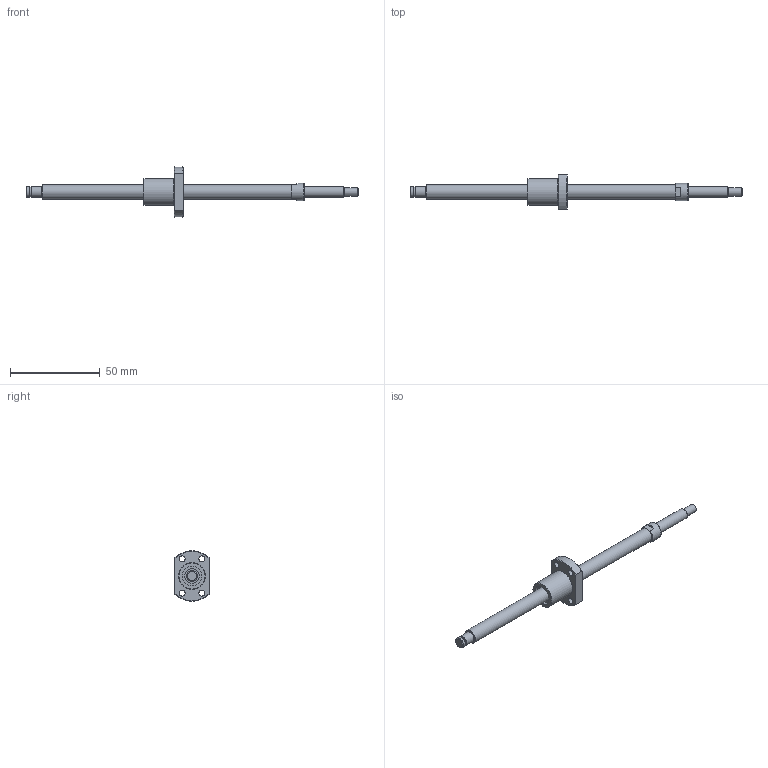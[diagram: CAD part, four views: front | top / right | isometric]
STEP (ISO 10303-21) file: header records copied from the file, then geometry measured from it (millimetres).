
FILE_DESCRIPTION(/* description */ ('STEP AP203'),/* implementation_level */ '2;1');
FILE_NAME(/* name */ 'BNK0802-3RRG0+185LC5Y(78.5)',/* time_stamp */ '2024-07-09T08:47:21+02:00',/* author */ ('License CC BY-ND 4.0'),/* organization */ ('CADENAS'),/* preprocessor_version */ 'ST-DEVELOPER v19.3',/* originating_system */ 'PARTsolutions',/* authorisation */ ' ');
FILE_SCHEMA (('CONFIG_CONTROL_DESIGN'));
Length unit declared in the file: millimetre
Products named in the file (3): BNK0802-3RRG0+185LC5Y(78.5); BNK 0802-3RRG0+185LC5Y Shaft; BNK 0802-3RRG0+185LC5YRR Nut
Assembly tree (2 placements, depth 2):
  BNK0802-3RRG0+185LC5Y(78.5)
    BNK 0802-3RRG0+185LC5Y Shaft
    BNK 0802-3RRG0+185LC5YRR Nut
Bounding box: 185 x 19 x 27.9 mm (x, y, z)
Volume: 12429.3 mm3; surface area: 7369.5 mm2
Topology: 2 solids, 2 shells, 50 faces, 101 edges, 64 vertices
Faces by surface type: plane 21, cylinder 18, cone 9, torus 2
Full cylindrical faces by diameter (mm): 3.4 x4, 4.5 x1, 5.7 x1, 6 x3, 8 x2, 9.5 x1, 11 x2, 14 x1, 15 x1
Entity records: 1295 total; most frequent: DIRECTION 226, CARTESIAN_POINT 217, ORIENTED_EDGE 154, AXIS2_PLACEMENT_3D 104, EDGE_LOOP 92, FACE_BOUND 92, EDGE_CURVE 77, VERTEX_POINT 63
